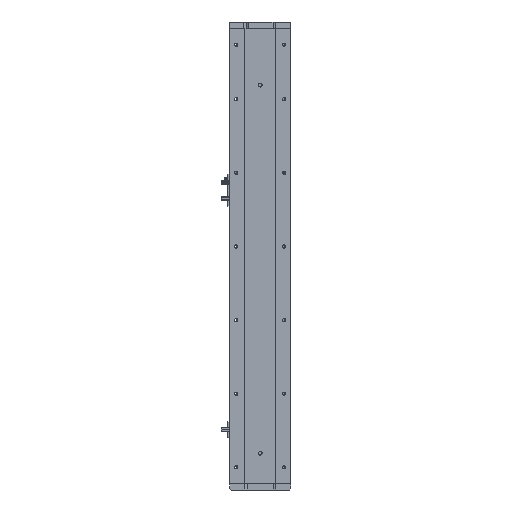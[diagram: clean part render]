
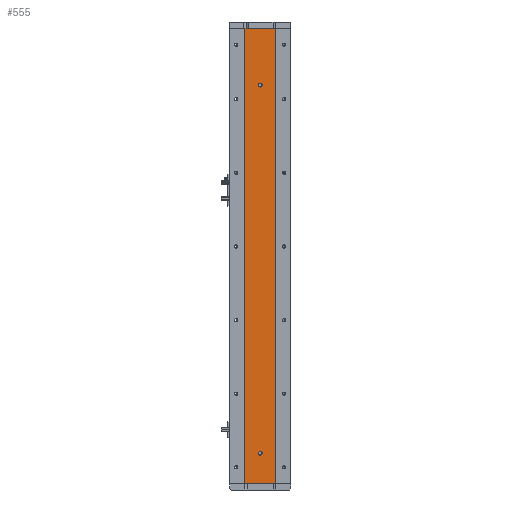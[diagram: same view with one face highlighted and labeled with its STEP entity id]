
A CAD part, left-side view. The second image highlights one B-rep face of the part: STEP entity #555.
In plain terms, the highlighted planar face has unit normal (-1, 0, 0).
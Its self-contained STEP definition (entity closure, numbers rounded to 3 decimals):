
#555 = ADVANCED_FACE ( 'NONE', ( #17052, #1812, #32162 ), #34022, .F. ) ;
#631 = LINE ( 'NONE', #19260, #19454 ) ;
#1236 = DIRECTION ( 'NONE',  ( 0., 0., 1. ) ) ;
#1644 = CARTESIAN_POINT ( 'NONE',  ( -18.926, 24.785, 0. ) ) ;
#1812 = FACE_BOUND ( 'NONE', #11542, .T. ) ;
#2090 = DIRECTION ( 'NONE',  ( 0., 0., -1. ) ) ;
#2170 = EDGE_LOOP ( 'NONE', ( #9543, #15811 ) ) ;
#2214 = DIRECTION ( 'NONE',  ( 0., 0., 1. ) ) ;
#2376 = CARTESIAN_POINT ( 'NONE',  ( -18.926, -24.785, 743. ) ) ;
#2511 = VERTEX_POINT ( 'NONE', #16280 ) ;
#2914 = DIRECTION ( 'NONE',  ( 0., -1., 0. ) ) ;
#5928 = CARTESIAN_POINT ( 'NONE',  ( -18.926, 0., 50. ) ) ;
#6488 = VERTEX_POINT ( 'NONE', #18798 ) ;
#7335 = ORIENTED_EDGE ( 'NONE', *, *, #13114, .F. ) ;
#8790 = DIRECTION ( 'NONE',  ( 0., 0., 1. ) ) ;
#9482 = VERTEX_POINT ( 'NONE', #13364 ) ;
#9508 = EDGE_CURVE ( 'NONE', #13603, #13449, #631, .T. ) ;
#9543 = ORIENTED_EDGE ( 'NONE', *, *, #12546, .F. ) ;
#10611 = ORIENTED_EDGE ( 'NONE', *, *, #16314, .T. ) ;
#11435 = AXIS2_PLACEMENT_3D ( 'NONE', #5928, #25884, #8790 ) ;
#11542 = EDGE_LOOP ( 'NONE', ( #35578, #15463 ) ) ;
#11830 = VERTEX_POINT ( 'NONE', #35803 ) ;
#12546 = EDGE_CURVE ( 'NONE', #16320, #9482, #29700, .T. ) ;
#13114 = EDGE_CURVE ( 'NONE', #11830, #13603, #22033, .T. ) ;
#13364 = CARTESIAN_POINT ( 'NONE',  ( -18.926, 0., 647. ) ) ;
#13449 = VERTEX_POINT ( 'NONE', #35851 ) ;
#13603 = VERTEX_POINT ( 'NONE', #2376 ) ;
#13885 = CARTESIAN_POINT ( 'NONE',  ( -18.926, 24.785, 743. ) ) ;
#14423 = DIRECTION ( 'NONE',  ( 0., 0., -1. ) ) ;
#14441 = DIRECTION ( 'NONE',  ( -1., 0., 0. ) ) ;
#15041 = CARTESIAN_POINT ( 'NONE',  ( -18.926, 24.785, 743. ) ) ;
#15262 = DIRECTION ( 'NONE',  ( 1., 0., 0. ) ) ;
#15340 = VECTOR ( 'NONE', #2914, 1000. ) ;
#15353 = CIRCLE ( 'NONE', #22036, 3. ) ;
#15463 = ORIENTED_EDGE ( 'NONE', *, *, #31128, .F. ) ;
#15811 = ORIENTED_EDGE ( 'NONE', *, *, #31003, .F. ) ;
#16280 = CARTESIAN_POINT ( 'NONE',  ( -18.926, 24.785, 0. ) ) ;
#16314 = EDGE_CURVE ( 'NONE', #11830, #2511, #34337, .T. ) ;
#16320 = VERTEX_POINT ( 'NONE', #23847 ) ;
#16588 = AXIS2_PLACEMENT_3D ( 'NONE', #13885, #15262, #14423 ) ;
#16897 = CARTESIAN_POINT ( 'NONE',  ( -18.926, 0., 53. ) ) ;
#17052 = FACE_BOUND ( 'NONE', #2170, .T. ) ;
#17219 = VECTOR ( 'NONE', #35843, 1000. ) ;
#18367 = DIRECTION ( 'NONE',  ( -1., 0., 0. ) ) ;
#18798 = CARTESIAN_POINT ( 'NONE',  ( -18.926, 0., 47. ) ) ;
#19260 = CARTESIAN_POINT ( 'NONE',  ( -18.926, -24.785, 743. ) ) ;
#19372 = DIRECTION ( 'NONE',  ( -1., 0., 0. ) ) ;
#19454 = VECTOR ( 'NONE', #2090, 1000. ) ;
#20011 = VERTEX_POINT ( 'NONE', #16897 ) ;
#20788 = LINE ( 'NONE', #1644, #17219 ) ;
#21820 = EDGE_CURVE ( 'NONE', #2511, #13449, #20788, .T. ) ;
#22033 = LINE ( 'NONE', #22902, #15340 ) ;
#22036 = AXIS2_PLACEMENT_3D ( 'NONE', #36416, #19372, #2214 ) ;
#22902 = CARTESIAN_POINT ( 'NONE',  ( -18.926, 24.785, 743. ) ) ;
#23847 = CARTESIAN_POINT ( 'NONE',  ( -18.926, 0., 653. ) ) ;
#24030 = CIRCLE ( 'NONE', #11435, 3. ) ;
#25884 = DIRECTION ( 'NONE',  ( -1., 0., 0. ) ) ;
#26975 = ORIENTED_EDGE ( 'NONE', *, *, #21820, .T. ) ;
#28435 = ORIENTED_EDGE ( 'NONE', *, *, #9508, .F. ) ;
#29700 = CIRCLE ( 'NONE', #36018, 3. ) ;
#31003 = EDGE_CURVE ( 'NONE', #9482, #16320, #34517, .T. ) ;
#31128 = EDGE_CURVE ( 'NONE', #6488, #20011, #15353, .T. ) ;
#31485 = CARTESIAN_POINT ( 'NONE',  ( -18.926, 0., 650. ) ) ;
#32162 = FACE_OUTER_BOUND ( 'NONE', #36154, .T. ) ;
#34022 = PLANE ( 'NONE',  #16588 ) ;
#34238 = AXIS2_PLACEMENT_3D ( 'NONE', #35423, #18367, #1236 ) ;
#34337 = LINE ( 'NONE', #15041, #35226 ) ;
#34399 = DIRECTION ( 'NONE',  ( 0., 0., 1. ) ) ;
#34517 = CIRCLE ( 'NONE', #34238, 3. ) ;
#35226 = VECTOR ( 'NONE', #35245, 1000. ) ;
#35245 = DIRECTION ( 'NONE',  ( 0., 0., -1. ) ) ;
#35423 = CARTESIAN_POINT ( 'NONE',  ( -18.926, 0., 650. ) ) ;
#35578 = ORIENTED_EDGE ( 'NONE', *, *, #35750, .F. ) ;
#35750 = EDGE_CURVE ( 'NONE', #20011, #6488, #24030, .T. ) ;
#35803 = CARTESIAN_POINT ( 'NONE',  ( -18.926, 24.785, 743. ) ) ;
#35843 = DIRECTION ( 'NONE',  ( 0., -1., 0. ) ) ;
#35851 = CARTESIAN_POINT ( 'NONE',  ( -18.926, -24.785, 0. ) ) ;
#36018 = AXIS2_PLACEMENT_3D ( 'NONE', #31485, #14441, #34399 ) ;
#36154 = EDGE_LOOP ( 'NONE', ( #26975, #28435, #7335, #10611 ) ) ;
#36416 = CARTESIAN_POINT ( 'NONE',  ( -18.926, 0., 50. ) ) ;
